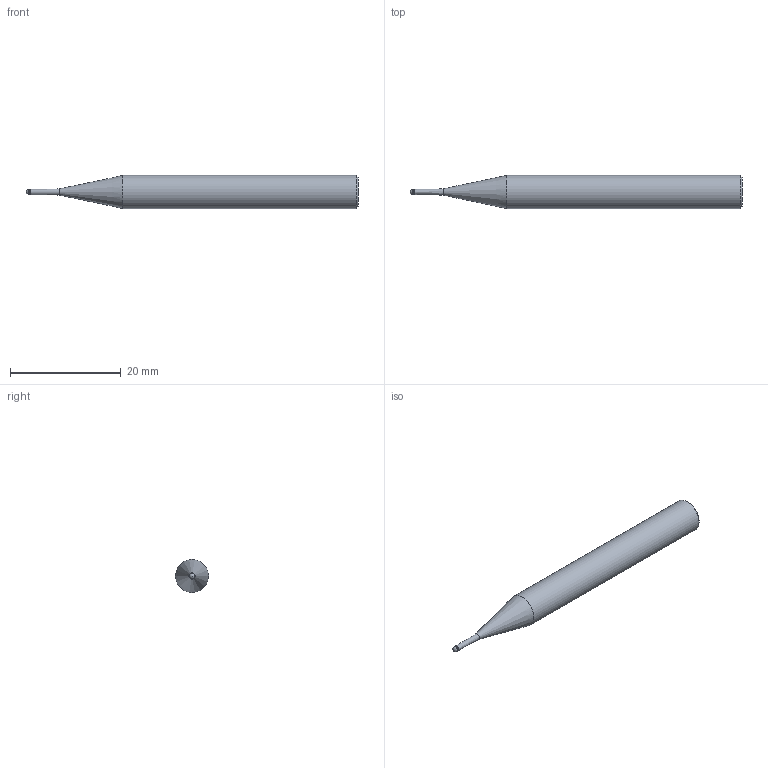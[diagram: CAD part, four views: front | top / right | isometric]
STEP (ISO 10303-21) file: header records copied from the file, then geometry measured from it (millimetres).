
FILE_DESCRIPTION(/* description */ (''),/* implementation_level */ '2;1');
FILE_NAME(/* name */ 'HGXPB2010-6-T0.9 0660.stp',/* time_stamp */ '2026-01-22T08:53:48+08:00',/* author */ (''),/* organization */ (''),/* preprocessor_version */ 'ST-DEVELOPER v16',/* originating_system */ 'SIEMENS PLM Software NX 10.0',/* authorisation */ '');
FILE_SCHEMA (('CONFIG_CONTROL_DESIGN'));
Length unit declared in the file: millimetre
Products named in the file (1): HGXPB2010-6-T0.9 0660_x_t
Bounding box: 60 x 6 x 6 mm (x, y, z)
Volume: 1338 mm3; surface area: 976.8 mm2
Topology: 1 solids, 1 shells, 9 faces, 17 edges, 10 vertices
Faces by surface type: cylinder 3, cone 3, plane 2, sphere 1
Full cylindrical faces by diameter (mm): 0.95 x1, 1 x1, 6 x1
Entity records: 258 total; most frequent: DIRECTION 36, CARTESIAN_POINT 26, AXIS2_PLACEMENT_3D 18, EDGE_LOOP 16, ORIENTED_EDGE 16, FACE_BOUND 14, ADVANCED_FACE 9, VERTEX_POINT 8
